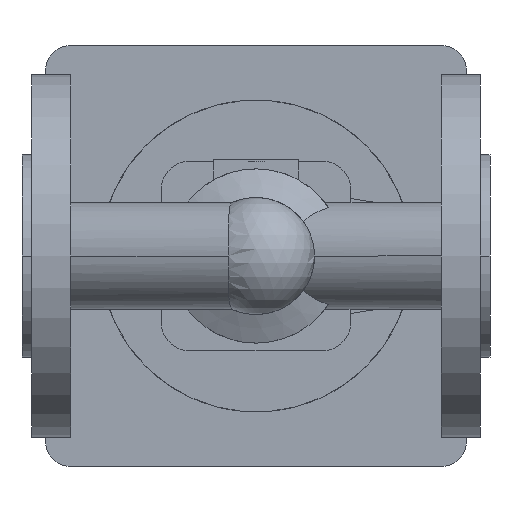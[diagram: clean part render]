
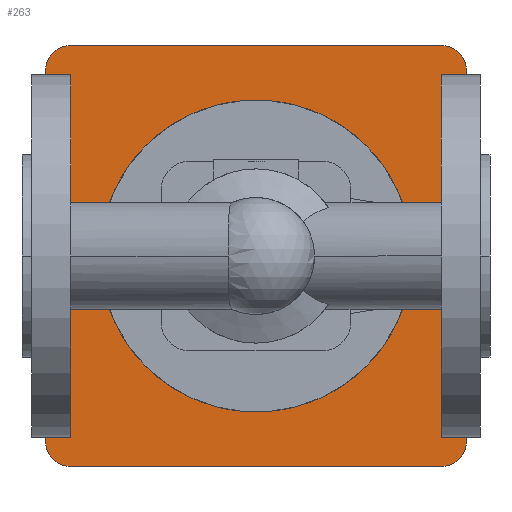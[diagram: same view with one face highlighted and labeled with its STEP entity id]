
A CAD part, front view. The second image highlights one B-rep face of the part: STEP entity #263.
In plain terms, the highlighted planar face has unit normal (0, -1, 0).
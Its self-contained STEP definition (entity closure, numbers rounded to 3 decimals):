
#263 = ADVANCED_FACE( '', ( #603, #604 ), #605, .F. );
#603 = FACE_OUTER_BOUND( '', #969, .T. );
#604 = FACE_BOUND( '', #970, .T. );
#605 = PLANE( '', #971 );
#969 = EDGE_LOOP( '', ( #2116, #2117, #2118, #2119, #2120, #2121, #2122, #2123 ) );
#970 = EDGE_LOOP( '', ( #2124, #2125 ) );
#971 = AXIS2_PLACEMENT_3D( '', #2126, #2127, #2128 );
#2116 = ORIENTED_EDGE( '', *, *, #2645, .F. );
#2117 = ORIENTED_EDGE( '', *, *, #2646, .F. );
#2118 = ORIENTED_EDGE( '', *, *, #2647, .F. );
#2119 = ORIENTED_EDGE( '', *, *, #2648, .F. );
#2120 = ORIENTED_EDGE( '', *, *, #2649, .F. );
#2121 = ORIENTED_EDGE( '', *, *, #2650, .F. );
#2122 = ORIENTED_EDGE( '', *, *, #2651, .F. );
#2123 = ORIENTED_EDGE( '', *, *, #2652, .F. );
#2124 = ORIENTED_EDGE( '', *, *, #2560, .F. );
#2125 = ORIENTED_EDGE( '', *, *, #2653, .F. );
#2126 = CARTESIAN_POINT( '', ( 90., 406.5, 0. ) );
#2127 = DIRECTION( '', ( 0., 1., 0. ) );
#2128 = DIRECTION( '', ( 0., 0., 1. ) );
#2560 = EDGE_CURVE( '', #3135, #3138, #3139, .T. );
#2645 = EDGE_CURVE( '', #3282, #3283, #3284, .T. );
#2646 = EDGE_CURVE( '', #3285, #3282, #3286, .T. );
#2647 = EDGE_CURVE( '', #3287, #3285, #3288, .T. );
#2648 = EDGE_CURVE( '', #3289, #3287, #3290, .T. );
#2649 = EDGE_CURVE( '', #3291, #3289, #3292, .T. );
#2650 = EDGE_CURVE( '', #3293, #3291, #3294, .T. );
#2651 = EDGE_CURVE( '', #3295, #3293, #3296, .T. );
#2652 = EDGE_CURVE( '', #3283, #3295, #3297, .T. );
#2653 = EDGE_CURVE( '', #3138, #3135, #3298, .T. );
#3135 = VERTEX_POINT( '', #4308 );
#3138 = VERTEX_POINT( '', #4312 );
#3139 = CIRCLE( '', #4313, 40. );
#3282 = VERTEX_POINT( '', #4511 );
#3283 = VERTEX_POINT( '', #4512 );
#3284 = CIRCLE( '', #4513, 10. );
#3285 = VERTEX_POINT( '', #4514 );
#3286 = LINE( '', #4515, #4516 );
#3287 = VERTEX_POINT( '', #4517 );
#3288 = CIRCLE( '', #4518, 10. );
#3289 = VERTEX_POINT( '', #4519 );
#3290 = LINE( '', #4520, #4521 );
#3291 = VERTEX_POINT( '', #4522 );
#3292 = CIRCLE( '', #4523, 10. );
#3293 = VERTEX_POINT( '', #4524 );
#3294 = LINE( '', #4525, #4526 );
#3295 = VERTEX_POINT( '', #4527 );
#3296 = CIRCLE( '', #4528, 10. );
#3297 = LINE( '', #4529, #4530 );
#3298 = CIRCLE( '', #4531, 40. );
#4308 = CARTESIAN_POINT( '', ( 50., 406.5, 0. ) );
#4312 = CARTESIAN_POINT( '', ( 130., 406.5, 0. ) );
#4313 = AXIS2_PLACEMENT_3D( '', #5086, #5087, #5088 );
#4511 = CARTESIAN_POINT( '', ( 9., 406.5, 71. ) );
#4512 = CARTESIAN_POINT( '', ( 19., 406.5, 81. ) );
#4513 = AXIS2_PLACEMENT_3D( '', #5231, #5232, #5233 );
#4514 = CARTESIAN_POINT( '', ( 9., 406.5, -71. ) );
#4515 = CARTESIAN_POINT( '', ( 9., 406.5, -71. ) );
#4516 = VECTOR( '', #5234, 1. );
#4517 = CARTESIAN_POINT( '', ( 19., 406.5, -81. ) );
#4518 = AXIS2_PLACEMENT_3D( '', #5235, #5236, #5237 );
#4519 = CARTESIAN_POINT( '', ( 161., 406.5, -81. ) );
#4520 = CARTESIAN_POINT( '', ( 161., 406.5, -81. ) );
#4521 = VECTOR( '', #5238, 1. );
#4522 = CARTESIAN_POINT( '', ( 171., 406.5, -71. ) );
#4523 = AXIS2_PLACEMENT_3D( '', #5239, #5240, #5241 );
#4524 = CARTESIAN_POINT( '', ( 171., 406.5, 71. ) );
#4525 = CARTESIAN_POINT( '', ( 171., 406.5, 71. ) );
#4526 = VECTOR( '', #5242, 1. );
#4527 = CARTESIAN_POINT( '', ( 161., 406.5, 81. ) );
#4528 = AXIS2_PLACEMENT_3D( '', #5243, #5244, #5245 );
#4529 = CARTESIAN_POINT( '', ( 19., 406.5, 81. ) );
#4530 = VECTOR( '', #5246, 1. );
#4531 = AXIS2_PLACEMENT_3D( '', #5247, #5248, #5249 );
#5086 = CARTESIAN_POINT( '', ( 90., 406.5, 0. ) );
#5087 = DIRECTION( '', ( 0., -1., 0. ) );
#5088 = DIRECTION( '', ( -1., 0., 0. ) );
#5231 = CARTESIAN_POINT( '', ( 19., 406.5, 71. ) );
#5232 = DIRECTION( '', ( 0., 1., 0. ) );
#5233 = DIRECTION( '', ( -1., 0., 0. ) );
#5234 = DIRECTION( '', ( 0., 0., 1. ) );
#5235 = CARTESIAN_POINT( '', ( 19., 406.5, -71. ) );
#5236 = DIRECTION( '', ( 0., 1., 0. ) );
#5237 = DIRECTION( '', ( 0., 0., -1. ) );
#5238 = DIRECTION( '', ( -1., 0., 0. ) );
#5239 = CARTESIAN_POINT( '', ( 161., 406.5, -71. ) );
#5240 = DIRECTION( '', ( 0., 1., 0. ) );
#5241 = DIRECTION( '', ( 1., 0., 0. ) );
#5242 = DIRECTION( '', ( 0., 0., -1. ) );
#5243 = CARTESIAN_POINT( '', ( 161., 406.5, 71. ) );
#5244 = DIRECTION( '', ( 0., 1., 0. ) );
#5245 = DIRECTION( '', ( 0., 0., 1. ) );
#5246 = DIRECTION( '', ( 1., 0., 0. ) );
#5247 = CARTESIAN_POINT( '', ( 90., 406.5, 0. ) );
#5248 = DIRECTION( '', ( 0., -1., 0. ) );
#5249 = DIRECTION( '', ( -1., 0., 0. ) );
